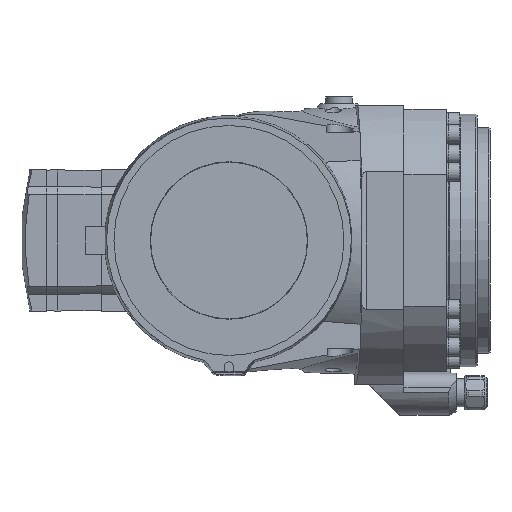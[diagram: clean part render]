
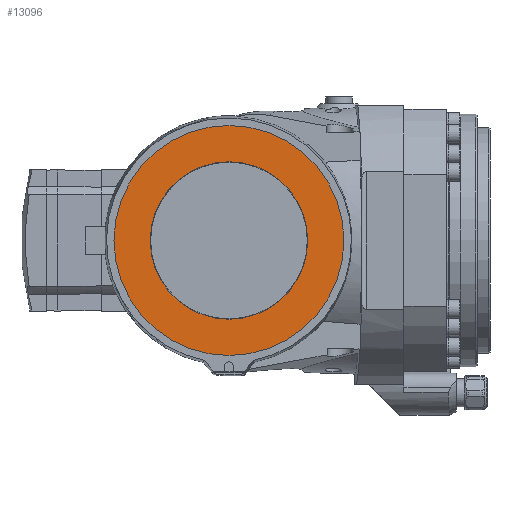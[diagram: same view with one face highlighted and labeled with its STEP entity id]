
A CAD part, front view. The second image highlights one B-rep face of the part: STEP entity #13096.
In plain terms, the highlighted planar face has unit normal (0, -1, 0).
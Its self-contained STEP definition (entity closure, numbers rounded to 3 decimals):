
#397 = DIRECTION ( 'NONE',  ( -1., 0., 0. ) ) ;
#757 = CARTESIAN_POINT ( 'NONE',  ( 1706.71, -97., 2205. ) ) ;
#1691 = AXIS2_PLACEMENT_3D ( 'NONE', #26885, #5092, #29872 ) ;
#5092 = DIRECTION ( 'NONE',  ( 0., 1., 0. ) ) ;
#5964 = DIRECTION ( 'NONE',  ( 0., -1., 0. ) ) ;
#8185 = DIRECTION ( 'NONE',  ( -1., 0., 0. ) ) ;
#9017 = PLANE ( 'NONE',  #29826 ) ;
#9655 = EDGE_LOOP ( 'NONE', ( #11474 ) ) ;
#10766 = VERTEX_POINT ( 'NONE', #27626 ) ;
#11200 = CIRCLE ( 'NONE', #27949, 55.79 ) ;
#11474 = ORIENTED_EDGE ( 'NONE', *, *, #22262, .F. ) ;
#12820 = CARTESIAN_POINT ( 'NONE',  ( 1681., -97., 2205. ) ) ;
#13096 = ADVANCED_FACE ( 'NONE', ( #14100, #23921 ), #9017, .F. ) ;
#14100 = FACE_OUTER_BOUND ( 'NONE', #9655, .T. ) ;
#19937 = DIRECTION ( 'NONE',  ( 0., 1., 0. ) ) ;
#22262 = EDGE_CURVE ( 'NONE', #10766, #10766, #26017, .T. ) ;
#23921 = FACE_BOUND ( 'NONE', #31368, .T. ) ;
#24998 = EDGE_CURVE ( 'NONE', #30143, #30143, #11200, .T. ) ;
#26017 = CIRCLE ( 'NONE', #1691, 81.5 ) ;
#26885 = CARTESIAN_POINT ( 'NONE',  ( 1762.5, -97., 2205. ) ) ;
#27626 = CARTESIAN_POINT ( 'NONE',  ( 1681., -97., 2205. ) ) ;
#27949 = AXIS2_PLACEMENT_3D ( 'NONE', #28088, #5964, #8185 ) ;
#28088 = CARTESIAN_POINT ( 'NONE',  ( 1762.5, -97., 2205. ) ) ;
#29826 = AXIS2_PLACEMENT_3D ( 'NONE', #12820, #19937, #397 ) ;
#29872 = DIRECTION ( 'NONE',  ( -1., 0., 0. ) ) ;
#30143 = VERTEX_POINT ( 'NONE', #757 ) ;
#31157 = ORIENTED_EDGE ( 'NONE', *, *, #24998, .F. ) ;
#31368 = EDGE_LOOP ( 'NONE', ( #31157 ) ) ;
